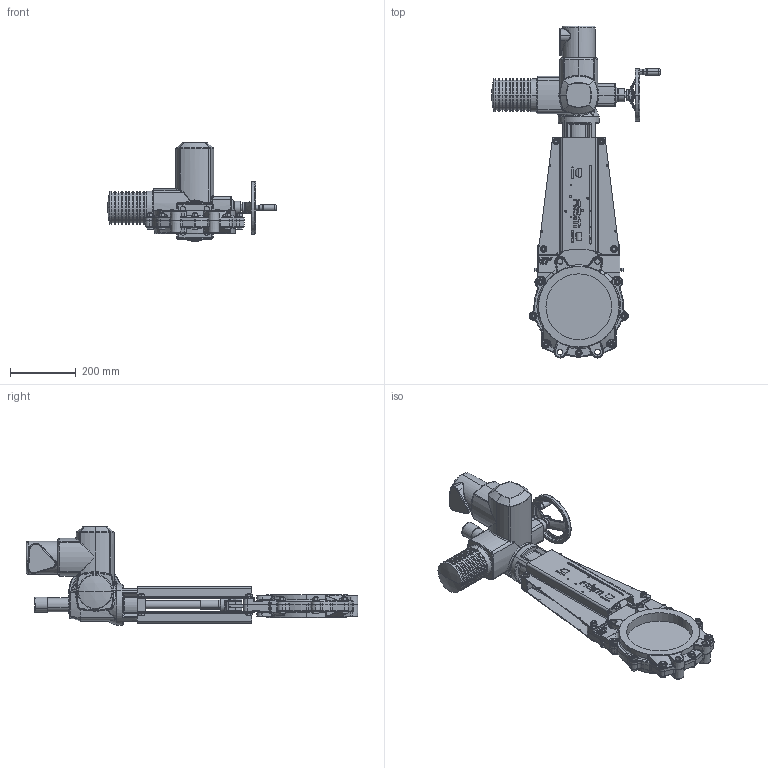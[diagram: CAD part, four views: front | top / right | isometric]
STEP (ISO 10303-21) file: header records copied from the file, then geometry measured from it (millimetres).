
FILE_DESCRIPTION (( 'STEP AP214' ), '1' );
FILE_NAME ('VSE DN 0200.STEP', '2015-09-23T11:20:12', ( 'admin' ), ( 'Hewlett-Packard Company' ), 'SwSTEP 2.0', 'SolidWorks 2013', '' );
FILE_SCHEMA (( 'AUTOMOTIVE_DESIGN' ));
Length unit declared in the file: millimetre
Products named in the file (1): VSE DN 0200
Bounding box: 513 x 1009.32 x 300.5 mm (x, y, z)
Volume: 11662123.3 mm3; surface area: 1250902.9 mm2
Topology: 63 solids, 68 shells, 3258 faces, 7698 edges, 4546 vertices
Faces by surface type: plane 1005, cylinder 869, cone 566, bspline 511, torus 263, sphere 44
Entity records: 152013 total; most frequent: CARTESIAN_POINT 43965, ORIENTED_EDGE 15152, DIRECTION 14643, EDGE_CURVE 7576, AXIS2_PLACEMENT_3D 5932, VERTEX_POINT 4546, EDGE_LOOP 3568, UNCERTAINTY_MEASURE_WITH_UNIT 3323
